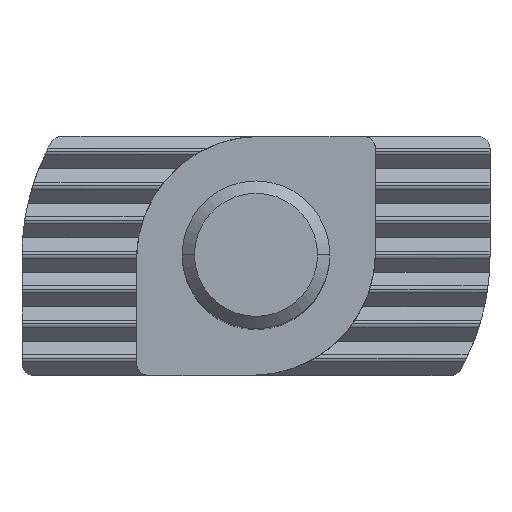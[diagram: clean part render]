
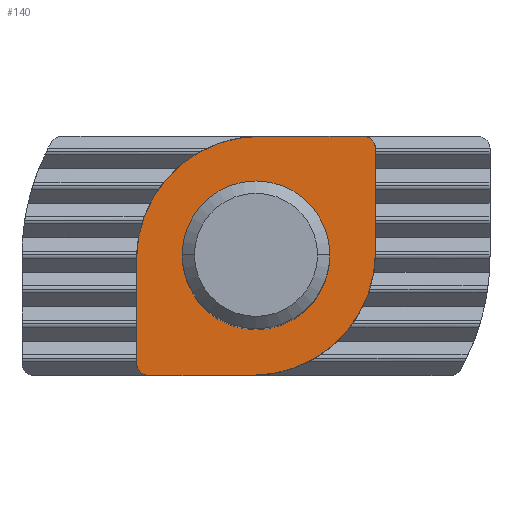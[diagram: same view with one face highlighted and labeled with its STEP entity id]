
A CAD part, top view. The second image highlights one B-rep face of the part: STEP entity #140.
In plain terms, the highlighted planar face has unit normal (0, 0, 1).
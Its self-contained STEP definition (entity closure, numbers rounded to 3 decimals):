
#140=ADVANCED_FACE('NONE',(#340,#341),#342,.F.);
#340=FACE_OUTER_BOUND('',#598,.T.);
#341=FACE_BOUND('',#599,.T.);
#342=PLANE('',#600);
#598=EDGE_LOOP('',(#933,#934,#935,#936,#937,#938,#939,#940));
#599=EDGE_LOOP('',(#941,#942));
#600=AXIS2_PLACEMENT_3D('',#943,#944,#945);
#933=ORIENTED_EDGE('',*,*,#1689,.T.);
#934=ORIENTED_EDGE('',*,*,#1690,.T.);
#935=ORIENTED_EDGE('',*,*,#1691,.T.);
#936=ORIENTED_EDGE('',*,*,#1692,.T.);
#937=ORIENTED_EDGE('',*,*,#1693,.T.);
#938=ORIENTED_EDGE('',*,*,#1694,.T.);
#939=ORIENTED_EDGE('',*,*,#1695,.T.);
#940=ORIENTED_EDGE('',*,*,#1696,.T.);
#941=ORIENTED_EDGE('',*,*,#1697,.F.);
#942=ORIENTED_EDGE('',*,*,#1686,.F.);
#943=CARTESIAN_POINT('',(-0.15,0.15,8.8));
#944=DIRECTION('',(-0.0,-0.0,-1.0));
#945=DIRECTION('',(0.0,-1.0,0.0));
#1686=EDGE_CURVE('NONE',#2068,#2070,#2071,.T.);
#1689=EDGE_CURVE('NONE',#2074,#2075,#2076,.T.);
#1690=EDGE_CURVE('NONE',#2075,#2077,#2078,.T.);
#1691=EDGE_CURVE('NONE',#2077,#2079,#2080,.T.);
#1692=EDGE_CURVE('NONE',#2079,#2081,#2082,.T.);
#1693=EDGE_CURVE('NONE',#2081,#2083,#2084,.T.);
#1694=EDGE_CURVE('NONE',#2083,#2085,#2086,.T.);
#1695=EDGE_CURVE('NONE',#2085,#2087,#2088,.T.);
#1696=EDGE_CURVE('NONE',#2087,#2074,#2089,.T.);
#1697=EDGE_CURVE('NONE',#2070,#2068,#2090,.T.);
#2068=VERTEX_POINT('NONE',#2651);
#2070=VERTEX_POINT('NONE',#2654);
#2071=CIRCLE('',#2655,3.0);
#2074=VERTEX_POINT('NONE',#2659);
#2075=VERTEX_POINT('NONE',#2660);
#2076=LINE('',#2661,#2662);
#2077=VERTEX_POINT('NONE',#2663);
#2078=CIRCLE('',#2664,0.5);
#2079=VERTEX_POINT('NONE',#2665);
#2080=LINE('',#2666,#2667);
#2081=VERTEX_POINT('NONE',#2668);
#2082=CIRCLE('',#2669,5.0);
#2083=VERTEX_POINT('NONE',#2670);
#2084=LINE('',#2671,#2672);
#2085=VERTEX_POINT('NONE',#2673);
#2086=CIRCLE('',#2674,0.5);
#2087=VERTEX_POINT('NONE',#2675);
#2088=LINE('',#2676,#2677);
#2089=CIRCLE('',#2678,5.0);
#2090=CIRCLE('',#2679,3.0);
#2651=CARTESIAN_POINT('',(3.0,0.,8.8));
#2654=CARTESIAN_POINT('',(-3.0,0.0,8.8));
#2655=AXIS2_PLACEMENT_3D('',#3618,#3619,#3620);
#2659=CARTESIAN_POINT('',(4.85,0.15,8.8));
#2660=CARTESIAN_POINT('',(4.85,4.35,8.8));
#2661=CARTESIAN_POINT('',(4.85,4.85,8.8));
#2662=VECTOR('',#3622,1000.0);
#2663=CARTESIAN_POINT('',(4.35,4.85,8.8));
#2664=AXIS2_PLACEMENT_3D('',#3623,#3624,#3625);
#2665=CARTESIAN_POINT('',(0.15,4.85,8.8));
#2666=CARTESIAN_POINT('',(0.15,4.85,8.8));
#2667=VECTOR('',#3626,1000.0);
#2668=CARTESIAN_POINT('',(-4.85,-0.15,8.8));
#2669=AXIS2_PLACEMENT_3D('',#3627,#3628,#3629);
#2670=CARTESIAN_POINT('',(-4.85,-4.35,8.8));
#2671=CARTESIAN_POINT('',(-4.85,-0.15,8.8));
#2672=VECTOR('',#3630,1000.0);
#2673=CARTESIAN_POINT('',(-4.35,-4.85,8.8));
#2674=AXIS2_PLACEMENT_3D('',#3631,#3632,#3633);
#2675=CARTESIAN_POINT('',(-0.15,-4.85,8.8));
#2676=CARTESIAN_POINT('',(-0.15,-4.85,8.8));
#2677=VECTOR('',#3634,1000.0);
#2678=AXIS2_PLACEMENT_3D('',#3635,#3636,#3637);
#2679=AXIS2_PLACEMENT_3D('',#3638,#3639,#3640);
#3618=CARTESIAN_POINT('',(0.0,0.0,8.8));
#3619=DIRECTION('',(0.0,0.0,1.0));
#3620=DIRECTION('',(-1.0,0.0,0.0));
#3622=DIRECTION('',(-0.0,1.0,-0.0));
#3623=CARTESIAN_POINT('',(4.35,4.35,8.8));
#3624=DIRECTION('',(0.0,0.0,1.0));
#3625=DIRECTION('',(-1.0,0.0,0.0));
#3626=DIRECTION('',(-1.0,-0.0,-0.0));
#3627=CARTESIAN_POINT('',(0.15,-0.15,8.8));
#3628=DIRECTION('',(0.0,0.0,1.0));
#3629=DIRECTION('',(1.0,0.0,0.0));
#3630=DIRECTION('',(0.,-1.0,0.0));
#3631=CARTESIAN_POINT('',(-4.35,-4.35,8.8));
#3632=DIRECTION('',(0.0,0.0,1.0));
#3633=DIRECTION('',(-1.0,0.0,0.0));
#3634=DIRECTION('',(1.0,0.,-0.0));
#3635=CARTESIAN_POINT('',(-0.15,0.15,8.8));
#3636=DIRECTION('',(0.0,0.0,1.0));
#3637=DIRECTION('',(-1.0,0.0,0.0));
#3638=CARTESIAN_POINT('',(0.0,0.0,8.8));
#3639=DIRECTION('',(0.0,0.0,1.0));
#3640=DIRECTION('',(-1.0,0.0,0.0));
